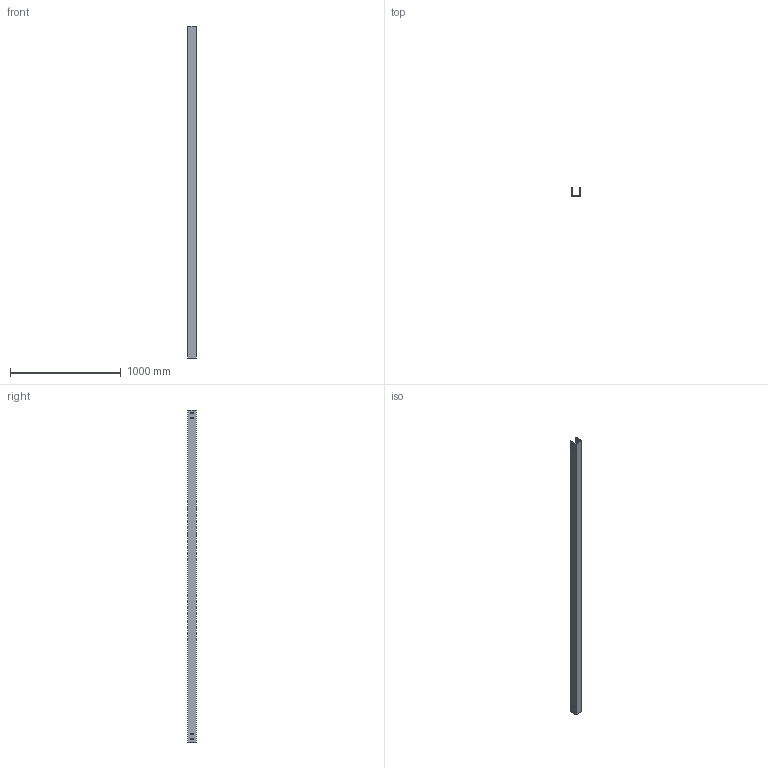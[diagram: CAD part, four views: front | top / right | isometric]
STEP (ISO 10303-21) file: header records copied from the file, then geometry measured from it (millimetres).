
FILE_DESCRIPTION (( 'STEP AP214' ), '1' );
FILE_NAME ('CC_757.step', '2025-07-16T09:05:05', ( '' ), ( '' ), 'SwSTEP 2.0', 'SolidWorks 2023', '' );
FILE_SCHEMA (( 'AUTOMOTIVE_DESIGN' ));
Length unit declared in the file: millimetre
Products named in the file (1): CC_757
Bounding box: 75 x 75 x 3000 mm (x, y, z)
Volume: 997320 mm3; surface area: 1340242 mm2
Topology: 1 solids, 1 shells, 74 faces, 216 edges, 144 vertices
Faces by surface type: plane 74
Entity records: 2487 total; most frequent: CARTESIAN_POINT 435, ORIENTED_EDGE 432, DIRECTION 366, LINE 216, EDGE_CURVE 216, VECTOR 216, VERTEX_POINT 144, EDGE_LOOP 106
